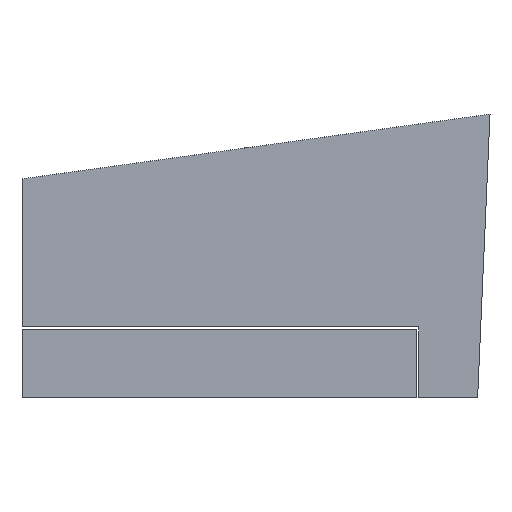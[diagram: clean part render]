
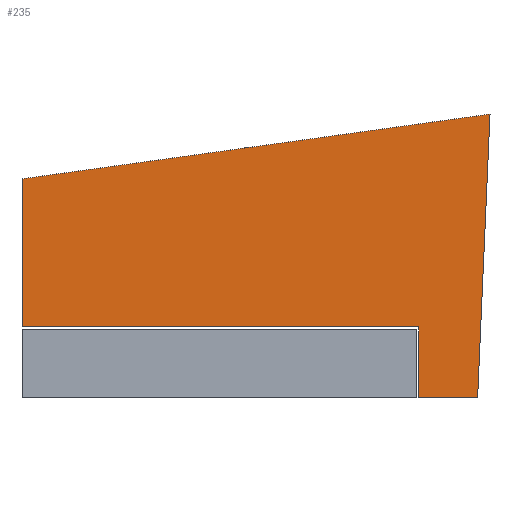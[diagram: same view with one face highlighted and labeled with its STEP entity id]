
A CAD part, left-side view. The second image highlights one B-rep face of the part: STEP entity #235.
In plain terms, the highlighted planar face has unit normal (-1, 0, 0).
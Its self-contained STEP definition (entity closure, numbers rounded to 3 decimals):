
#23=FACE_OUTER_BOUND('',#37,.T.);
#37=EDGE_LOOP('',(#179,#180,#181,#182,#183,#184));
#57=LINE('',#362,#87);
#58=LINE('',#364,#88);
#59=LINE('',#366,#89);
#60=LINE('',#368,#90);
#61=LINE('',#370,#91);
#62=LINE('',#371,#92);
#87=VECTOR('',#300,10.);
#88=VECTOR('',#301,10.);
#89=VECTOR('',#302,10.);
#90=VECTOR('',#303,10.);
#91=VECTOR('',#304,10.);
#92=VECTOR('',#305,10.);
#113=VERTEX_POINT('',#360);
#114=VERTEX_POINT('',#361);
#115=VERTEX_POINT('',#363);
#116=VERTEX_POINT('',#365);
#117=VERTEX_POINT('',#367);
#118=VERTEX_POINT('',#369);
#137=EDGE_CURVE('',#113,#114,#57,.T.);
#138=EDGE_CURVE('',#114,#115,#58,.T.);
#139=EDGE_CURVE('',#115,#116,#59,.T.);
#140=EDGE_CURVE('',#117,#116,#60,.T.);
#141=EDGE_CURVE('',#118,#117,#61,.T.);
#142=EDGE_CURVE('',#118,#113,#62,.T.);
#179=ORIENTED_EDGE('',*,*,#137,.T.);
#180=ORIENTED_EDGE('',*,*,#138,.T.);
#181=ORIENTED_EDGE('',*,*,#139,.T.);
#182=ORIENTED_EDGE('',*,*,#140,.F.);
#183=ORIENTED_EDGE('',*,*,#141,.F.);
#184=ORIENTED_EDGE('',*,*,#142,.T.);
#221=PLANE('',#264);
#235=ADVANCED_FACE('',(#23),#221,.F.);
#264=AXIS2_PLACEMENT_3D('',#359,#298,#299);
#298=DIRECTION('center_axis',(1.,0.,0.));
#299=DIRECTION('ref_axis',(0.,0.,-1.));
#300=DIRECTION('',(0.,0.,-1.));
#301=DIRECTION('',(0.,-1.,0.));
#302=DIRECTION('',(0.,-0.044,0.999));
#303=DIRECTION('',(0.,-0.991,0.137));
#304=DIRECTION('',(0.,0.,1.));
#305=DIRECTION('',(0.,-1.,0.));
#359=CARTESIAN_POINT('Origin',(0.,94.,-57.));
#360=CARTESIAN_POINT('',(0.,28.7,-85.5));
#361=CARTESIAN_POINT('',(0.,28.7,-114.));
#362=CARTESIAN_POINT('',(0.,28.7,-85.5));
#363=CARTESIAN_POINT('',(0.,4.977,-114.));
#364=CARTESIAN_POINT('',(0.,188.,-114.));
#365=CARTESIAN_POINT('',(0.,0.,0.));
#366=CARTESIAN_POINT('',(0.,4.977,-114.));
#367=CARTESIAN_POINT('',(0.,188.,-26.));
#368=CARTESIAN_POINT('',(0.,188.,-26.));
#369=CARTESIAN_POINT('',(0.,188.,-85.5));
#370=CARTESIAN_POINT('',(0.,188.,-114.));
#371=CARTESIAN_POINT('',(0.,61.35,-85.5));
